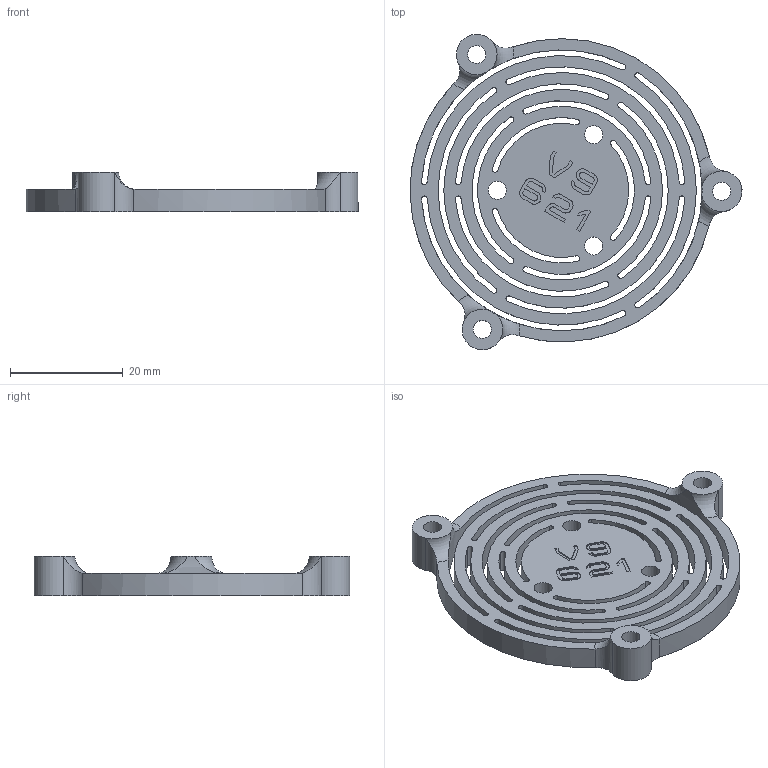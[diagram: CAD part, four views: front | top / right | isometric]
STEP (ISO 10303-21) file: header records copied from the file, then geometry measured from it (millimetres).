
FILE_DESCRIPTION(/* description */ (''),/* implementation_level */ '2;1');
FILE_NAME(/* name */ 'vostok_v9.0b3_assembly_id15168_x_b.stp',/* time_stamp */ '2026-03-02T01:47:25+02:00',/* author */ (''),/* organization */ (''),/* preprocessor_version */ 'ST-DEVELOPER v20',/* originating_system */ 'SIEMENS PLM Software NX2412.8300',/* authorisation */ '');
FILE_SCHEMA (('AUTOMOTIVE_DESIGN { 1 0 10303 214 3 1 1 1 }'));
Length unit declared in the file: millimetre
Products named in the file (1): vostok_v9.0b3_assembly_id15168_x_b
Bounding box: 58.88 x 55.95 x 7 mm (x, y, z)
Volume: 7511.4 mm3; surface area: 9235.1 mm2
Topology: 1 solids, 1 shells, 177 faces, 510 edges, 339 vertices
Faces by surface type: cylinder 78, plane 62, extrusion 31, torus 6
Full cylindrical faces by diameter (mm): 3.2 x6
Entity records: 6186 total; most frequent: CARTESIAN_POINT 1462, ORIENTED_EDGE 1002, DIRECTION 914, EDGE_CURVE 501, VERTEX_POINT 336, AXIS2_PLACEMENT_3D 315, VECTOR 284, LINE 253
